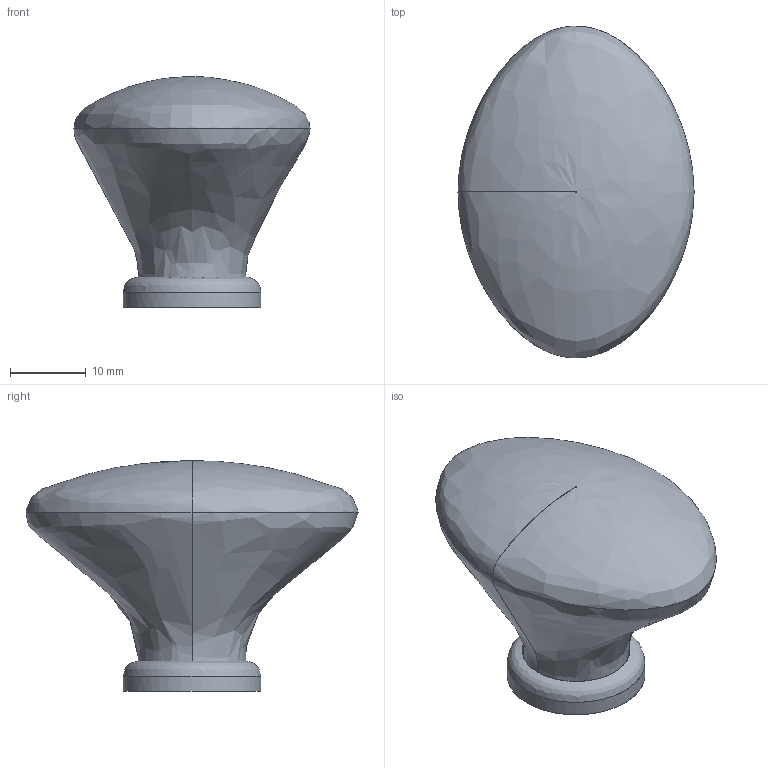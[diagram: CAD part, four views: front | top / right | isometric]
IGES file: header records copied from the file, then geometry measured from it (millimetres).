
Start section: C
Global section: file name: 0609-44.igs; native system: By Siemens PLM Incorporated; preprocessor: XPlus GENERIC/IGES 16.0.42; author: Author; organization: Title; date: 20220504.160208; units: millimetre
Bounding box: 31.2 x 43.88 x 30.5 mm (x, y, z)
Surface area: 6170.9 mm2 (no closed solid volume)
Topology: 0 solids, 0 shells, 14 faces, 47 edges, 46 vertices
Faces by surface type: bspline 14
